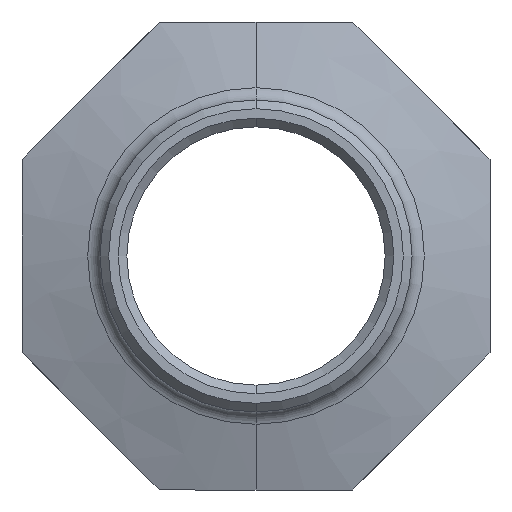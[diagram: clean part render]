
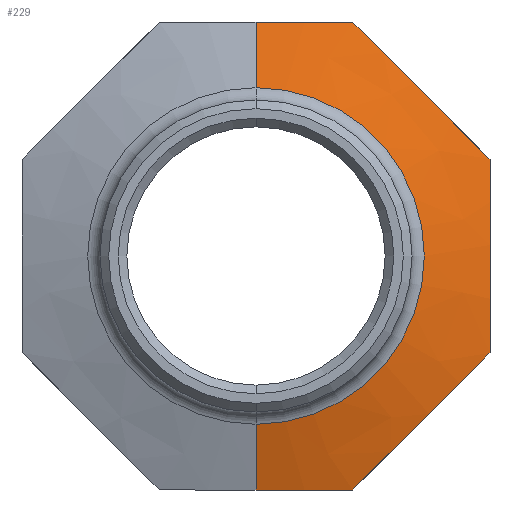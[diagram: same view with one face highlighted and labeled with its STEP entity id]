
A CAD part, front view. The second image highlights one B-rep face of the part: STEP entity #229.
In plain terms, the highlighted conical face has half-angle 73 degrees and reference radius 9.708 mm.
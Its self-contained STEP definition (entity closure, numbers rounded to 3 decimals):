
#5 = DIRECTION ( 'NONE',  ( 0., 0.292, 0.956 ) ) ;
#14 = VERTEX_POINT ( 'NONE', #777 ) ;
#33 = EDGE_CURVE ( 'NONE', #774, #848, #248, .T. ) ;
#117 = AXIS2_PLACEMENT_3D ( 'NONE', #278, #269, #976 ) ;
#124 = VECTOR ( 'NONE', #5, 1000. ) ;
#150 = CARTESIAN_POINT ( 'NONE',  ( 5.592, 27.716, 13.5 ) ) ;
#163 = CARTESIAN_POINT ( 'NONE',  ( 9.546, 27.254, 9.546 ) ) ;
#174 = ORIENTED_EDGE ( 'NONE', *, *, #454, .F. ) ;
#205 = ORIENTED_EDGE ( 'NONE', *, *, #334, .F. ) ;
#229 = ADVANCED_FACE ( 'NONE', ( #879 ), #636, .T. ) ;
#248 = B_SPLINE_CURVE_WITH_KNOTS ( 'NONE', 3,
 ( #150, #605, #163, #730, #1041 ),
 .UNSPECIFIED., .F., .F.,
 ( 4, 1, 4 ),
 ( 0., 0.006, 0.011 ),
 .UNSPECIFIED. ) ;
#257 = CIRCLE ( 'NONE', #676, 9.708 ) ;
#269 = DIRECTION ( 'NONE',  ( 0., 1., 0. ) ) ;
#278 = CARTESIAN_POINT ( 'NONE',  ( 0., 26.216, 0. ) ) ;
#299 = CARTESIAN_POINT ( 'NONE',  ( 5.592, 27.716, -13.5 ) ) ;
#301 = B_SPLINE_CURVE_WITH_KNOTS ( 'NONE', 3,
 ( #1039, #477, #725, #561 ),
 .UNSPECIFIED., .F., .F.,
 ( 4, 4 ),
 ( 0.005, 0.01 ),
 .UNSPECIFIED. ) ;
#317 = CARTESIAN_POINT ( 'NONE',  ( 0., 27.376, 13.5 ) ) ;
#329 = EDGE_CURVE ( 'NONE', #867, #374, #760, .T. ) ;
#332 = CARTESIAN_POINT ( 'NONE',  ( 5.592, 27.716, 13.5 ) ) ;
#334 = EDGE_CURVE ( 'NONE', #907, #993, #700, .T. ) ;
#349 = EDGE_LOOP ( 'NONE', ( #995, #990, #827, #205, #174, #558, #739, #940 ) ) ;
#353 = LINE ( 'NONE', #780, #124 ) ;
#374 = VERTEX_POINT ( 'NONE', #619 ) ;
#411 = B_SPLINE_CURVE_WITH_KNOTS ( 'NONE', 3,
 ( #643, #582, #482, #579 ),
 .UNSPECIFIED., .F., .F.,
 ( 4, 4 ),
 ( 0.019, 0.024 ),
 .UNSPECIFIED. ) ;
#454 = EDGE_CURVE ( 'NONE', #848, #907, #710, .T. ) ;
#477 = CARTESIAN_POINT ( 'NONE',  ( 3.734, 27.499, -13.5 ) ) ;
#482 = CARTESIAN_POINT ( 'NONE',  ( 3.734, 27.499, 13.5 ) ) ;
#493 = DIRECTION ( 'NONE',  ( 0., 0., -1. ) ) ;
#495 = CARTESIAN_POINT ( 'NONE',  ( 12.182, 27.498, -6.91 ) ) ;
#516 = VERTEX_POINT ( 'NONE', #317 ) ;
#540 = CARTESIAN_POINT ( 'NONE',  ( 13.5, 27.716, -5.592 ) ) ;
#558 = ORIENTED_EDGE ( 'NONE', *, *, #33, .F. ) ;
#561 = CARTESIAN_POINT ( 'NONE',  ( 0., 27.376, -13.5 ) ) ;
#578 = CARTESIAN_POINT ( 'NONE',  ( 13.5, 27.716, -5.592 ) ) ;
#579 = CARTESIAN_POINT ( 'NONE',  ( 5.592, 27.716, 13.5 ) ) ;
#581 = CARTESIAN_POINT ( 'NONE',  ( 6.91, 27.498, -12.182 ) ) ;
#582 = CARTESIAN_POINT ( 'NONE',  ( 1.871, 27.376, 13.5 ) ) ;
#604 = DIRECTION ( 'NONE',  ( 0., -1., 0. ) ) ;
#605 = CARTESIAN_POINT ( 'NONE',  ( 6.91, 27.498, 12.182 ) ) ;
#611 = CARTESIAN_POINT ( 'NONE',  ( 13.5, 27.607, -4.659 ) ) ;
#617 = CARTESIAN_POINT ( 'NONE',  ( 13.5, 27.52, -3.72 ) ) ;
#619 = CARTESIAN_POINT ( 'NONE',  ( 0., 27.376, -13.5 ) ) ;
#625 = CARTESIAN_POINT ( 'NONE',  ( 13.5, 27.405, -1.848 ) ) ;
#630 = CARTESIAN_POINT ( 'NONE',  ( 13.5, 27.375, -0.914 ) ) ;
#632 = CARTESIAN_POINT ( 'NONE',  ( 13.5, 27.377, 1.883 ) ) ;
#636 = CONICAL_SURFACE ( 'NONE', #117, 9.708, 1.274 ) ;
#638 = CARTESIAN_POINT ( 'NONE',  ( 13.5, 27.716, 5.592 ) ) ;
#643 = CARTESIAN_POINT ( 'NONE',  ( 0., 27.376, 13.5 ) ) ;
#676 = AXIS2_PLACEMENT_3D ( 'NONE', #720, #604, #493 ) ;
#684 = DIRECTION ( 'NONE',  ( 0., 0.292, -0.956 ) ) ;
#700 = B_SPLINE_CURVE_WITH_KNOTS ( 'NONE', 3,
 ( #540, #495, #1074, #581, #299 ),
 .UNSPECIFIED., .F., .F.,
 ( 4, 1, 4 ),
 ( 0., 0.006, 0.011 ),
 .UNSPECIFIED. ) ;
#710 = B_SPLINE_CURVE_WITH_KNOTS ( 'NONE', 3,
 ( #638, #857, #632, #630, #625, #617, #611, #578 ),
 .UNSPECIFIED., .F., .F.,
 ( 4, 2, 2, 4 ),
 ( 0.005, 0.01, 0.013, 0.016 ),
 .UNSPECIFIED. ) ;
#720 = CARTESIAN_POINT ( 'NONE',  ( 0., 26.216, 0. ) ) ;
#725 = CARTESIAN_POINT ( 'NONE',  ( 1.871, 27.376, -13.5 ) ) ;
#730 = CARTESIAN_POINT ( 'NONE',  ( 12.182, 27.498, 6.91 ) ) ;
#739 = ORIENTED_EDGE ( 'NONE', *, *, #781, .F. ) ;
#744 = CARTESIAN_POINT ( 'NONE',  ( 0., 26.216, -9.708 ) ) ;
#760 = LINE ( 'NONE', #744, #863 ) ;
#774 = VERTEX_POINT ( 'NONE', #332 ) ;
#777 = CARTESIAN_POINT ( 'NONE',  ( 0., 26.216, 9.708 ) ) ;
#780 = CARTESIAN_POINT ( 'NONE',  ( 0., 26.216, 9.708 ) ) ;
#781 = EDGE_CURVE ( 'NONE', #516, #774, #411, .T. ) ;
#827 = ORIENTED_EDGE ( 'NONE', *, *, #941, .F. ) ;
#848 = VERTEX_POINT ( 'NONE', #968 ) ;
#857 = CARTESIAN_POINT ( 'NONE',  ( 13.5, 27.499, 3.74 ) ) ;
#863 = VECTOR ( 'NONE', #684, 1000. ) ;
#867 = VERTEX_POINT ( 'NONE', #1042 ) ;
#873 = CARTESIAN_POINT ( 'NONE',  ( 5.592, 27.716, -13.5 ) ) ;
#879 = FACE_OUTER_BOUND ( 'NONE', #349, .T. ) ;
#907 = VERTEX_POINT ( 'NONE', #1024 ) ;
#940 = ORIENTED_EDGE ( 'NONE', *, *, #1048, .F. ) ;
#941 = EDGE_CURVE ( 'NONE', #993, #374, #301, .T. ) ;
#968 = CARTESIAN_POINT ( 'NONE',  ( 13.5, 27.716, 5.592 ) ) ;
#976 = DIRECTION ( 'NONE',  ( 0., 0., 1. ) ) ;
#990 = ORIENTED_EDGE ( 'NONE', *, *, #329, .T. ) ;
#993 = VERTEX_POINT ( 'NONE', #873 ) ;
#995 = ORIENTED_EDGE ( 'NONE', *, *, #1016, .F. ) ;
#1016 = EDGE_CURVE ( 'NONE', #867, #14, #257, .T. ) ;
#1024 = CARTESIAN_POINT ( 'NONE',  ( 13.5, 27.716, -5.592 ) ) ;
#1039 = CARTESIAN_POINT ( 'NONE',  ( 5.592, 27.716, -13.5 ) ) ;
#1041 = CARTESIAN_POINT ( 'NONE',  ( 13.5, 27.716, 5.592 ) ) ;
#1042 = CARTESIAN_POINT ( 'NONE',  ( 0., 26.216, -9.708 ) ) ;
#1048 = EDGE_CURVE ( 'NONE', #14, #516, #353, .T. ) ;
#1074 = CARTESIAN_POINT ( 'NONE',  ( 9.546, 27.254, -9.546 ) ) ;
